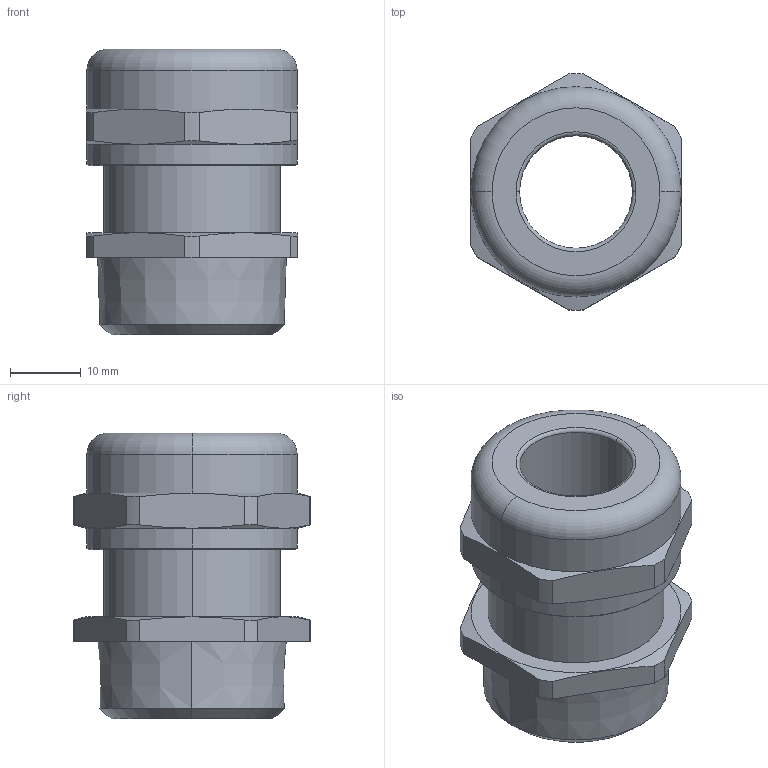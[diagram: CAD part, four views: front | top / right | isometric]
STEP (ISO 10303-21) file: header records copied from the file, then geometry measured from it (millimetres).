
FILE_DESCRIPTION (( 'STEP AP203' ), '1' );
FILE_NAME ('50.134-EMV-R.STEP', '2006-10-10T11:22:16', ( ' ' ), ( '' ), 'SwSTEP 2.0', 'SolidWorks 2005278', '' );
FILE_SCHEMA (( 'CONFIG_CONTROL_DESIGN' ));
Length unit declared in the file: millimetre
Products named in the file (1): 50.134-EMV-R
Bounding box: 30 x 33.49 x 40.5 mm (x, y, z)
Volume: 16835.8 mm3; surface area: 7051.8 mm2
Topology: 1 solids, 1 shells, 90 faces, 234 edges, 152 vertices
Faces by surface type: plane 54, cylinder 20, cone 12, torus 4
Entity records: 2929 total; most frequent: CARTESIAN_POINT 633, ORIENTED_EDGE 468, DIRECTION 450, EDGE_CURVE 234, VERTEX_POINT 152, VECTOR 152, LINE 152, AXIS2_PLACEMENT_3D 149
